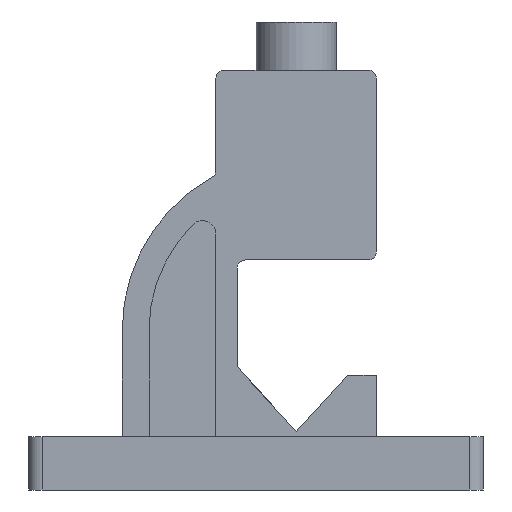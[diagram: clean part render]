
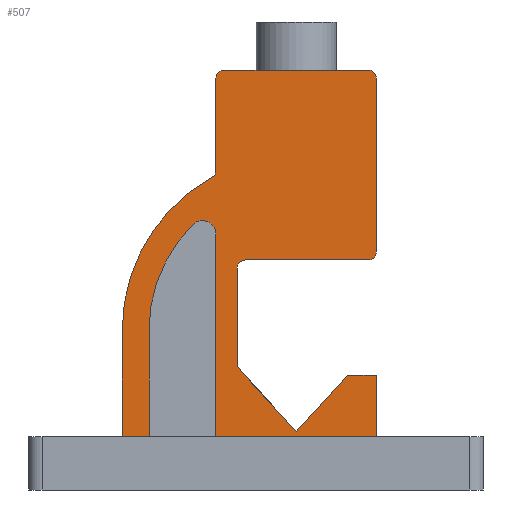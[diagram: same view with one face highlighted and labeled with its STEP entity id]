
A CAD part, front view. The second image highlights one B-rep face of the part: STEP entity #507.
In plain terms, the highlighted planar face has unit normal (0, -1, 0).
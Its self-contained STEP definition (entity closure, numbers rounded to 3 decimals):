
#196=CARTESIAN_POINT('Vertex',(0.,-12.,99.456)) ;
#199=CARTESIAN_POINT('Line Origine',(0.,-12.,116.728)) ;
#203=CARTESIAN_POINT('Vertex',(0.,-12.,134.)) ;
#273=CARTESIAN_POINT('Vertex',(8.,-12.,63.009)) ;
#299=CARTESIAN_POINT('Vertex',(11.,-12.,66.009)) ;
#302=CARTESIAN_POINT('Axis2P3D Location',(11.,-12.,63.009)) ;
#334=CARTESIAN_POINT('Vertex',(-1.544,-12.,96.833)) ;
#337=CARTESIAN_POINT('Axis2P3D Location',(-3.,-12.,99.456)) ;
#349=CARTESIAN_POINT('Axis2P3D Location',(60.,-12.,0.)) ;
#354=CARTESIAN_POINT('Axis2P3D Location',(3.,-12.,134.)) ;
#358=CARTESIAN_POINT('Vertex',(3.,-12.,137.)) ;
#361=CARTESIAN_POINT('Axis2P3D Location',(30.,-12.,40.)) ;
#365=CARTESIAN_POINT('Vertex',(-35.,-12.,40.)) ;
#368=CARTESIAN_POINT('Line Origine',(-35.,-12.,20.)) ;
#372=CARTESIAN_POINT('Vertex',(-35.,-12.,0.)) ;
#375=CARTESIAN_POINT('Line Origine',(-30.,-12.,0.)) ;
#379=CARTESIAN_POINT('Vertex',(-25.,-12.,0.)) ;
#382=CARTESIAN_POINT('Line Origine',(-25.,-12.,20.)) ;
#386=CARTESIAN_POINT('Vertex',(-25.,-12.,40.)) ;
#389=CARTESIAN_POINT('Axis2P3D Location',(30.,-12.,40.)) ;
#393=CARTESIAN_POINT('Vertex',(-8.5,-12.,79.278)) ;
#396=CARTESIAN_POINT('Axis2P3D Location',(-5.,-12.,75.707)) ;
#400=CARTESIAN_POINT('Vertex',(0.,-12.,75.707)) ;
#403=CARTESIAN_POINT('Line Origine',(0.,-12.,37.854)) ;
#407=CARTESIAN_POINT('Vertex',(0.,-12.,0.)) ;
#410=CARTESIAN_POINT('Line Origine',(30.,-12.,0.)) ;
#414=CARTESIAN_POINT('Vertex',(60.,-12.,0.)) ;
#417=CARTESIAN_POINT('Line Origine',(60.,-12.,11.5)) ;
#421=CARTESIAN_POINT('Vertex',(60.,-12.,23.)) ;
#424=CARTESIAN_POINT('Line Origine',(54.621,-12.,23.)) ;
#428=CARTESIAN_POINT('Vertex',(49.243,-12.,23.)) ;
#431=CARTESIAN_POINT('Line Origine',(39.621,-12.,12.5)) ;
#435=CARTESIAN_POINT('Vertex',(30.,-12.,2.)) ;
#438=CARTESIAN_POINT('Line Origine',(19.,-12.,14.004)) ;
#442=CARTESIAN_POINT('Vertex',(8.,-12.,26.009)) ;
#445=CARTESIAN_POINT('Line Origine',(8.,-12.,44.509)) ;
#450=CARTESIAN_POINT('Line Origine',(34.,-12.,66.009)) ;
#454=CARTESIAN_POINT('Vertex',(57.,-12.,66.009)) ;
#457=CARTESIAN_POINT('Axis2P3D Location',(57.,-12.,69.009)) ;
#461=CARTESIAN_POINT('Vertex',(60.,-12.,69.009)) ;
#464=CARTESIAN_POINT('Line Origine',(60.,-12.,101.504)) ;
#468=CARTESIAN_POINT('Vertex',(60.,-12.,134.)) ;
#471=CARTESIAN_POINT('Axis2P3D Location',(57.,-12.,134.)) ;
#475=CARTESIAN_POINT('Vertex',(57.,-12.,137.)) ;
#478=CARTESIAN_POINT('Line Origine',(30.,-12.,137.)) ;
#200=DIRECTION('Vector Direction',(0.,0.,1.)) ;
#303=DIRECTION('Axis2P3D Direction',(0.,1.,0.)) ;
#338=DIRECTION('Axis2P3D Direction',(0.,1.,0.)) ;
#350=DIRECTION('Axis2P3D Direction',(0.,1.,0.)) ;
#351=DIRECTION('Axis2P3D XDirection',(-1.,0.,0.)) ;
#355=DIRECTION('Axis2P3D Direction',(0.,1.,0.)) ;
#362=DIRECTION('Axis2P3D Direction',(0.,1.,0.)) ;
#369=DIRECTION('Vector Direction',(0.,0.,1.)) ;
#376=DIRECTION('Vector Direction',(-1.,0.,0.)) ;
#383=DIRECTION('Vector Direction',(0.,0.,1.)) ;
#390=DIRECTION('Axis2P3D Direction',(0.,1.,0.)) ;
#397=DIRECTION('Axis2P3D Direction',(0.,1.,0.)) ;
#404=DIRECTION('Vector Direction',(0.,0.,-1.)) ;
#411=DIRECTION('Vector Direction',(-1.,0.,0.)) ;
#418=DIRECTION('Vector Direction',(0.,0.,1.)) ;
#425=DIRECTION('Vector Direction',(1.,0.,0.)) ;
#432=DIRECTION('Vector Direction',(0.676,0.,0.737)) ;
#439=DIRECTION('Vector Direction',(0.676,0.,-0.737)) ;
#446=DIRECTION('Vector Direction',(0.,0.,-1.)) ;
#451=DIRECTION('Vector Direction',(-1.,0.,0.)) ;
#458=DIRECTION('Axis2P3D Direction',(0.,1.,0.)) ;
#465=DIRECTION('Vector Direction',(0.,0.,1.)) ;
#472=DIRECTION('Axis2P3D Direction',(0.,1.,0.)) ;
#479=DIRECTION('Vector Direction',(-1.,0.,0.)) ;
#304=AXIS2_PLACEMENT_3D('Circle Axis2P3D',#302,#303,$) ;
#339=AXIS2_PLACEMENT_3D('Circle Axis2P3D',#337,#338,$) ;
#352=AXIS2_PLACEMENT_3D('Plane Axis2P3D',#349,#350,#351) ;
#356=AXIS2_PLACEMENT_3D('Circle Axis2P3D',#354,#355,$) ;
#363=AXIS2_PLACEMENT_3D('Circle Axis2P3D',#361,#362,$) ;
#391=AXIS2_PLACEMENT_3D('Circle Axis2P3D',#389,#390,$) ;
#398=AXIS2_PLACEMENT_3D('Circle Axis2P3D',#396,#397,$) ;
#459=AXIS2_PLACEMENT_3D('Circle Axis2P3D',#457,#458,$) ;
#473=AXIS2_PLACEMENT_3D('Circle Axis2P3D',#471,#472,$) ;
#484=ORIENTED_EDGE('',*,*,#360,.F.) ;
#485=ORIENTED_EDGE('',*,*,#205,.F.) ;
#486=ORIENTED_EDGE('',*,*,#341,.T.) ;
#487=ORIENTED_EDGE('',*,*,#367,.T.) ;
#488=ORIENTED_EDGE('',*,*,#374,.T.) ;
#489=ORIENTED_EDGE('',*,*,#381,.T.) ;
#490=ORIENTED_EDGE('',*,*,#388,.F.) ;
#491=ORIENTED_EDGE('',*,*,#395,.F.) ;
#492=ORIENTED_EDGE('',*,*,#402,.T.) ;
#493=ORIENTED_EDGE('',*,*,#409,.F.) ;
#494=ORIENTED_EDGE('',*,*,#416,.T.) ;
#495=ORIENTED_EDGE('',*,*,#423,.T.) ;
#496=ORIENTED_EDGE('',*,*,#430,.F.) ;
#497=ORIENTED_EDGE('',*,*,#437,.F.) ;
#498=ORIENTED_EDGE('',*,*,#444,.F.) ;
#499=ORIENTED_EDGE('',*,*,#449,.F.) ;
#500=ORIENTED_EDGE('',*,*,#306,.T.) ;
#501=ORIENTED_EDGE('',*,*,#456,.F.) ;
#502=ORIENTED_EDGE('',*,*,#463,.F.) ;
#503=ORIENTED_EDGE('',*,*,#470,.T.) ;
#504=ORIENTED_EDGE('',*,*,#477,.F.) ;
#505=ORIENTED_EDGE('',*,*,#482,.F.) ;
#201=VECTOR('Line Direction',#200,1.) ;
#370=VECTOR('Line Direction',#369,1.) ;
#377=VECTOR('Line Direction',#376,1.) ;
#384=VECTOR('Line Direction',#383,1.) ;
#405=VECTOR('Line Direction',#404,1.) ;
#412=VECTOR('Line Direction',#411,1.) ;
#419=VECTOR('Line Direction',#418,1.) ;
#426=VECTOR('Line Direction',#425,1.) ;
#433=VECTOR('Line Direction',#432,1.) ;
#440=VECTOR('Line Direction',#439,1.) ;
#447=VECTOR('Line Direction',#446,1.) ;
#452=VECTOR('Line Direction',#451,1.) ;
#466=VECTOR('Line Direction',#465,1.) ;
#480=VECTOR('Line Direction',#479,1.) ;
#507=ADVANCED_FACE('',(#506),#353,.F.) ;
#305=CIRCLE('generated circle',#304,3.) ;
#340=CIRCLE('generated circle',#339,3.) ;
#357=CIRCLE('generated circle',#356,3.) ;
#364=CIRCLE('generated circle',#363,65.) ;
#392=CIRCLE('generated circle',#391,55.) ;
#399=CIRCLE('generated circle',#398,5.) ;
#460=CIRCLE('generated circle',#459,3.) ;
#474=CIRCLE('generated circle',#473,3.) ;
#205=EDGE_CURVE('',#197,#204,#202,.T.) ;
#306=EDGE_CURVE('',#274,#300,#305,.T.) ;
#341=EDGE_CURVE('',#197,#335,#340,.T.) ;
#360=EDGE_CURVE('',#204,#359,#357,.T.) ;
#367=EDGE_CURVE('',#335,#366,#364,.F.) ;
#374=EDGE_CURVE('',#366,#373,#371,.F.) ;
#381=EDGE_CURVE('',#373,#380,#378,.F.) ;
#388=EDGE_CURVE('',#387,#380,#385,.F.) ;
#395=EDGE_CURVE('',#394,#387,#392,.F.) ;
#402=EDGE_CURVE('',#394,#401,#399,.T.) ;
#409=EDGE_CURVE('',#408,#401,#406,.F.) ;
#416=EDGE_CURVE('',#408,#415,#413,.F.) ;
#423=EDGE_CURVE('',#415,#422,#420,.T.) ;
#430=EDGE_CURVE('',#429,#422,#427,.T.) ;
#437=EDGE_CURVE('',#436,#429,#434,.T.) ;
#444=EDGE_CURVE('',#443,#436,#441,.T.) ;
#449=EDGE_CURVE('',#274,#443,#448,.T.) ;
#456=EDGE_CURVE('',#455,#300,#453,.T.) ;
#463=EDGE_CURVE('',#462,#455,#460,.T.) ;
#470=EDGE_CURVE('',#462,#469,#467,.T.) ;
#477=EDGE_CURVE('',#476,#469,#474,.T.) ;
#482=EDGE_CURVE('',#359,#476,#481,.F.) ;
#483=EDGE_LOOP('',(#484,#485,#486,#487,#488,#489,#490,#491,#492,#493,#494,#495,#496,#497,#498,#499,#500,#501,#502,#503,#504,#505)) ;
#506=FACE_OUTER_BOUND('',#483,.T.) ;
#202=LINE('Line',#199,#201) ;
#371=LINE('Line',#368,#370) ;
#378=LINE('Line',#375,#377) ;
#385=LINE('Line',#382,#384) ;
#406=LINE('Line',#403,#405) ;
#413=LINE('Line',#410,#412) ;
#420=LINE('Line',#417,#419) ;
#427=LINE('Line',#424,#426) ;
#434=LINE('Line',#431,#433) ;
#441=LINE('Line',#438,#440) ;
#448=LINE('Line',#445,#447) ;
#453=LINE('Line',#450,#452) ;
#467=LINE('Line',#464,#466) ;
#481=LINE('Line',#478,#480) ;
#353=PLANE('Plane',#352) ;
#197=VERTEX_POINT('',#196) ;
#204=VERTEX_POINT('',#203) ;
#274=VERTEX_POINT('',#273) ;
#300=VERTEX_POINT('',#299) ;
#335=VERTEX_POINT('',#334) ;
#359=VERTEX_POINT('',#358) ;
#366=VERTEX_POINT('',#365) ;
#373=VERTEX_POINT('',#372) ;
#380=VERTEX_POINT('',#379) ;
#387=VERTEX_POINT('',#386) ;
#394=VERTEX_POINT('',#393) ;
#401=VERTEX_POINT('',#400) ;
#408=VERTEX_POINT('',#407) ;
#415=VERTEX_POINT('',#414) ;
#422=VERTEX_POINT('',#421) ;
#429=VERTEX_POINT('',#428) ;
#436=VERTEX_POINT('',#435) ;
#443=VERTEX_POINT('',#442) ;
#455=VERTEX_POINT('',#454) ;
#462=VERTEX_POINT('',#461) ;
#469=VERTEX_POINT('',#468) ;
#476=VERTEX_POINT('',#475) ;
